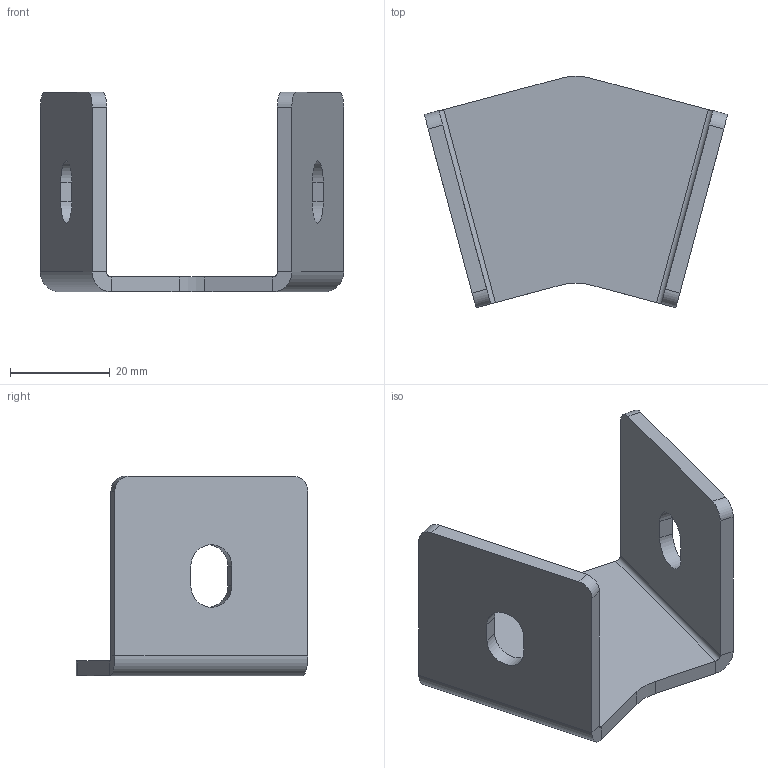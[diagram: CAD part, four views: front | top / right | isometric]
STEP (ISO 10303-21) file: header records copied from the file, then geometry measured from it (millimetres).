
FILE_DESCRIPTION (( 'STEP AP214' ), '1' );
FILE_NAME ('404030.STEP', '2018-02-21T08:40:38', ( '' ), ( '' ), 'SwSTEP 2.0', 'SolidWorks 2014', '' );
FILE_SCHEMA (( 'AUTOMOTIVE_DESIGN' ));
Length unit declared in the file: millimetre
Products named in the file (2): 404030
Bounding box: 60.71 x 46.38 x 40 mm (x, y, z)
Volume: 14310.3 mm3; surface area: 10716.1 mm2
Topology: 1 solids, 1 shells, 38 faces, 92 edges, 56 vertices
Faces by surface type: plane 24, cylinder 14
Entity records: 1153 total; most frequent: DIRECTION 200, CARTESIAN_POINT 188, ORIENTED_EDGE 184, EDGE_CURVE 92, AXIS2_PLACEMENT_3D 68, LINE 64, VECTOR 64, VERTEX_POINT 56
